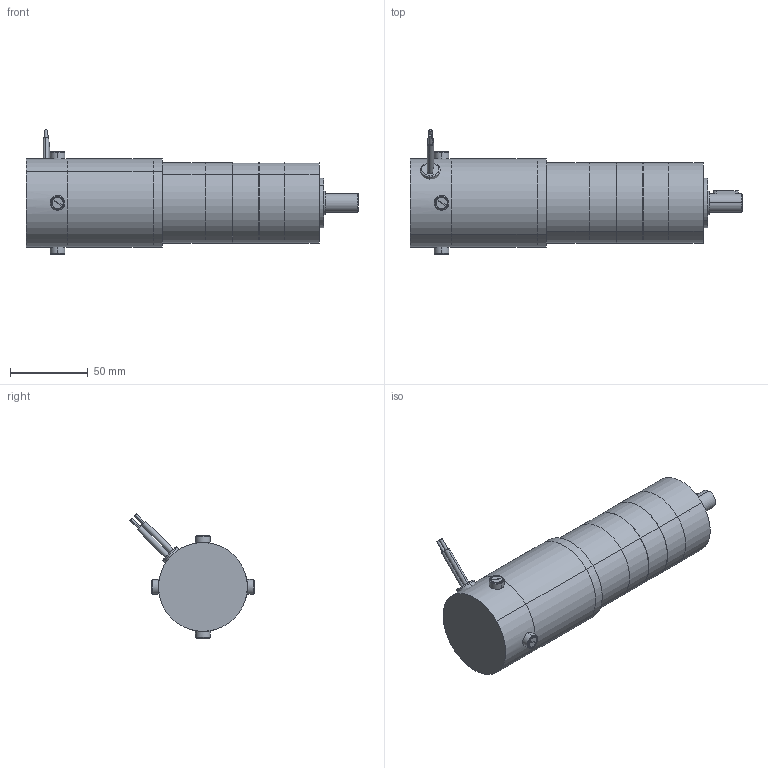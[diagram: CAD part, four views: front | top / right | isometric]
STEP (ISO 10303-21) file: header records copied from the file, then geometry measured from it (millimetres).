
FILE_DESCRIPTION (( 'STEP AP203' ), '1' );
FILE_NAME ('s22346gp3.step', '2018-12-07T19:57:17', ( '' ), ( '' ), 'SwSTEP 2.0', 'SolidWorks 2017', '' );
FILE_SCHEMA (( 'CONFIG_CONTROL_DESIGN' ));
Length unit declared in the file: inch
Products named in the file (1): s22346gp3
Bounding box: 213.63 x 80.07 x 80.07 mm (x, y, z)
Volume: 442638 mm3; surface area: 78740.3 mm2
Topology: 19 solids, 19 shells, 408 faces, 859 edges, 536 vertices
Faces by surface type: plane 181, cylinder 156, cone 53, torus 10, sphere 8
Entity records: 11365 total; most frequent: CARTESIAN_POINT 2188, DIRECTION 2090, ORIENTED_EDGE 1702, EDGE_CURVE 851, AXIS2_PLACEMENT_3D 844, VERTEX_POINT 536, EDGE_LOOP 483, CIRCLE 435
